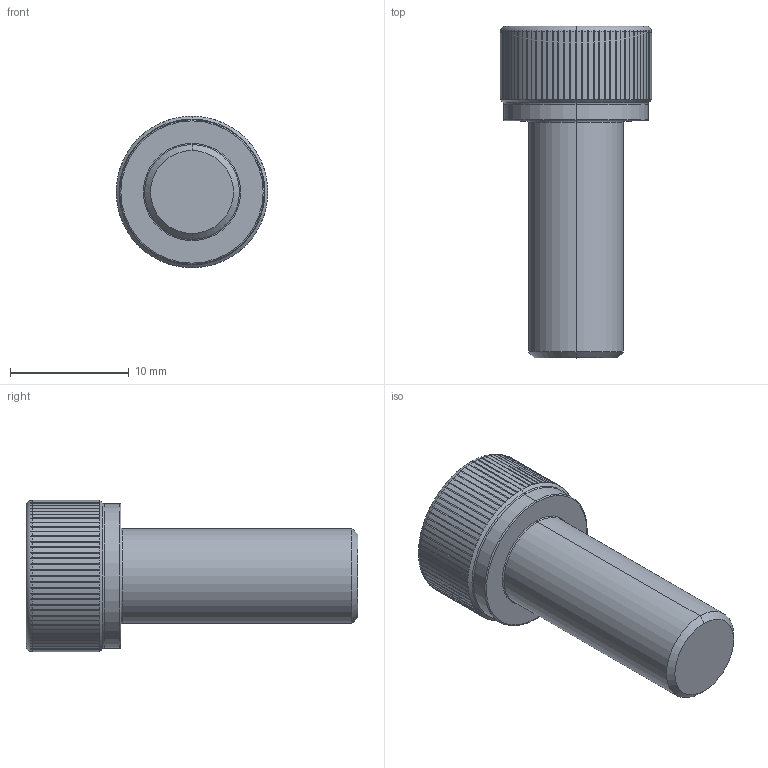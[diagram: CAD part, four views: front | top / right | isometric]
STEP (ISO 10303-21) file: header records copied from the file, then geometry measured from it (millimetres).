
FILE_DESCRIPTION (( 'STEP AP203' ), '1' );
FILE_NAME ('LGDT-304-M8x20.STEP', '2026-08-10T06:38:58', ( '' ), ( '' ), 'SwSTEP 2.0', 'SolidWorks 2020', '' );
FILE_SCHEMA (( 'CONFIG_CONTROL_DESIGN' ));
Length unit declared in the file: millimetre
Products named in the file (1): LGDT-304-M8x20
Bounding box: 12.8 x 28 x 12.8 mm (x, y, z)
Volume: 1853.7 mm3; surface area: 1156.2 mm2
Topology: 1 solids, 1 shells, 204 faces, 576 edges, 376 vertices
Faces by surface type: cylinder 175, cone 11, plane 10, torus 8
Entity records: 8367 total; most frequent: CARTESIAN_POINT 3208, ORIENTED_EDGE 1152, DIRECTION 988, EDGE_CURVE 576, AXIS2_PLACEMENT_3D 398, VERTEX_POINT 376, EDGE_LOOP 206, ADVANCED_FACE 204
